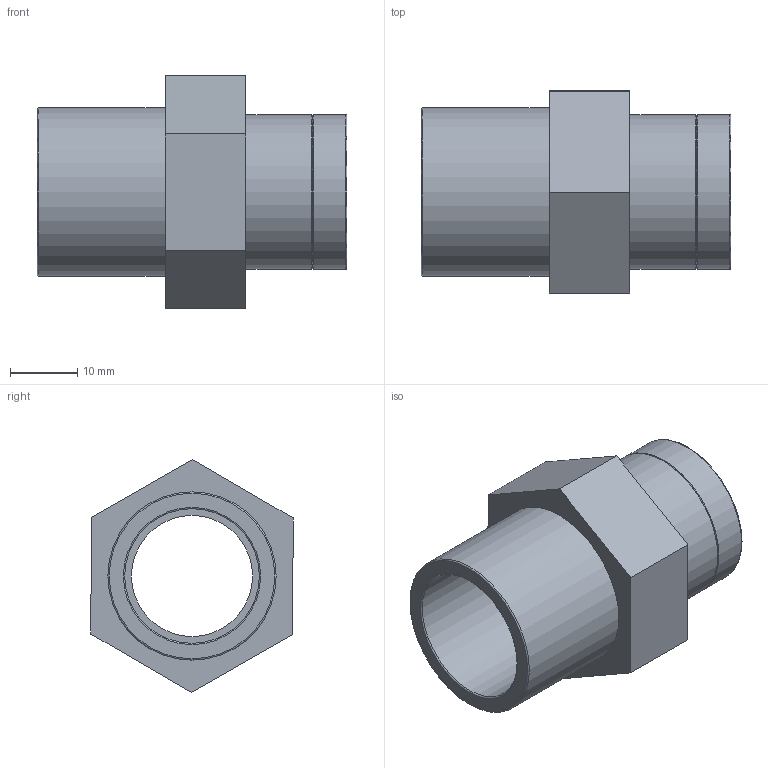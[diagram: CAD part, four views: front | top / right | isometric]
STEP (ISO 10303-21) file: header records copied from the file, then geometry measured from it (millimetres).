
FILE_DESCRIPTION(/* description */ ('PLASSON REDUCER THR-CEM REIN 25-(20)-1/2"'),/* implementation_level */ '2;1');
FILE_NAME(/* name */ 'C:\Dropbox\KIMPROJECTS-Inventor\99-16-3568-Processing\PVC Catalog 2017\057202\057202025005.ipt.stp',/* time_stamp */ '2017-12-07T16:05:30+02:00',/* author */ ('KIM'),/* organization */ (''),/* preprocessor_version */ 'ST-DEVELOPER v15.6',/* originating_system */ 'Autodesk Inventor 2015',/* authorisation */ '');
FILE_SCHEMA (('AUTOMOTIVE_DESIGN { 1 0 10303 214 3 1 1 }'));
Length unit declared in the file: millimetre
Products named in the file (1): 057202025005
Bounding box: 46 x 30.05 x 34.64 mm (x, y, z)
Volume: 11366.5 mm3; surface area: 7651.4 mm2
Topology: 1 solids, 1 shells, 24 faces, 47 edges, 29 vertices
Faces by surface type: plane 12, cylinder 6, torus 4, cone 2
Full cylindrical faces by diameter (mm): 18 x1, 18.631 x1, 20 x1, 23 x2, 25 x1
Entity records: 580 total; most frequent: DIRECTION 102, CARTESIAN_POINT 89, ORIENTED_EDGE 70, EDGE_LOOP 42, AXIS2_PLACEMENT_3D 42, EDGE_CURVE 35, VERTEX_POINT 29, FACE_OUTER_BOUND 24
